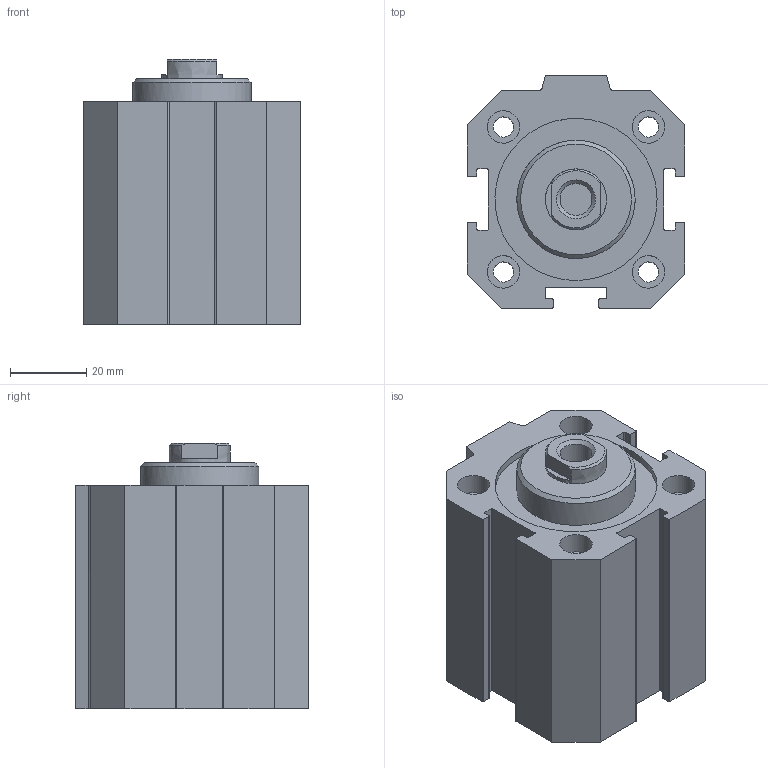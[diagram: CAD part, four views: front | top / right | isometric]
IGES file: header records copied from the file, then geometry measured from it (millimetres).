
Global section: file name: 1511_40_0020; native system: Autodesk Inventor 2014; preprocessor: unknown; author: A. Manieri; date: 20160824.120037; units: millimetre
Bounding box: 57 x 61 x 69.5 mm (x, y, z)
Volume: 144008.8 mm3; surface area: 41696.7 mm2
Topology: 2 solids, 2 shells, 117 faces, 300 edges, 205 vertices
Faces by surface type: bspline 117
